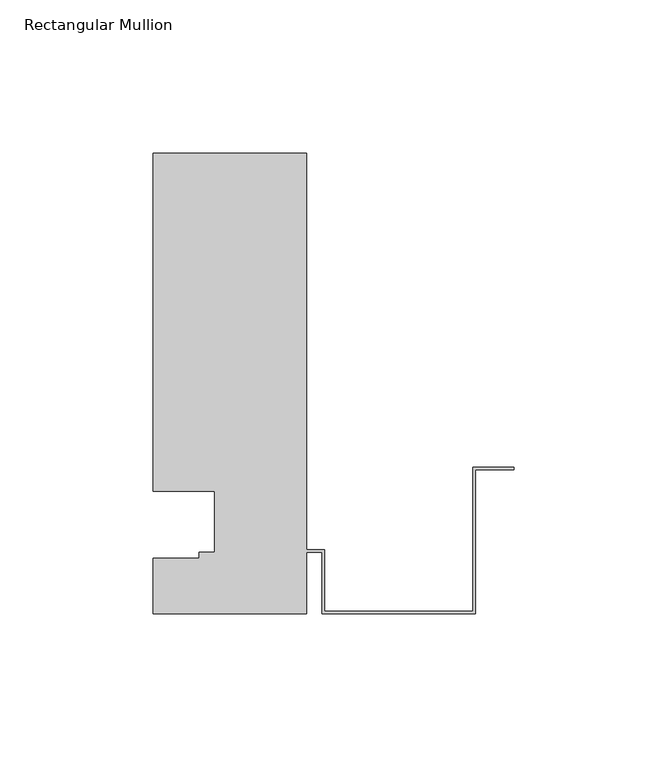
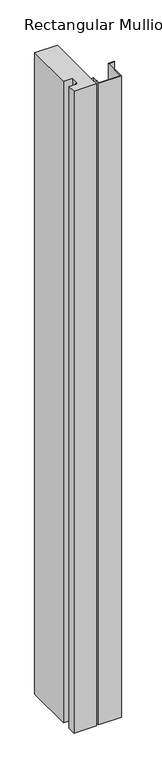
"""IFC4 building model written with IfcOpenShell, lengths in millimetres: member geometry, Rectangular Mullion : TR_CW_ALU_border_TR_m."""

import ifcopenshell
import ifcopenshell.guid

model = None  # the IFC model being written
_history = None  # IfcOwnerHistory: only IFC2X3 demands one
_inside = {}  # id of a spatial element -> (the spatial element, [elements in it])
_under = {}  # id of a project, library or spatial element -> (it, [spatial elements below it])
_declared = {}  # id of a project -> (the project, [libraries it declares])
_typed = {}  # id of a type object -> (the type object, [elements of that type])
_made_of = {}  # id of a material, layer set ... -> (it, [elements and type objects made of it])


def new_model(schema):
    """Start an empty IFC model of exactly this schema.

    Asked for "IFC4X3", IfcOpenShell would pick the latest addendum, in which some entities
    have other attributes; the version numbers below select the first issue.
    IFC2X3 requires an IfcOwnerHistory on every rooted entity: one is made here for all.
    """
    global model, _history
    if schema == "IFC4X3":
        model = ifcopenshell.file(schema_version=(4, 3, 0, 0))
    else:
        model = ifcopenshell.file(schema=schema)
    _inside.clear()
    _under.clear()
    _declared.clear()
    _typed.clear()
    _made_of.clear()
    _history = None
    if model.schema == "IFC2X3":
        org = make("IfcOrganization", Name="unknown")
        user = make(
            "IfcPersonAndOrganization",
            ThePerson=make("IfcPerson", FamilyName="unknown"),
            TheOrganization=org,
        )
        app = make(
            "IfcApplication",
            ApplicationDeveloper=org,
            Version="unknown",
            ApplicationFullName="unknown",
            ApplicationIdentifier="unknown",
        )
        _history = make(
            "IfcOwnerHistory",
            OwningUser=user,
            OwningApplication=app,
            ChangeAction="ADDED",
            CreationDate=0,
        )
    return model


def make(cls, **values):
    """One entity of the class cls with the attributes given. An attribute that is None is left unset."""
    return model.create_entity(
        cls, **{name: value for name, value in values.items() if value is not None}
    )


def rooted(cls, **values):
    """An entity with a GlobalId (a new one), such as an element, a storey or a relation."""
    return make(cls, GlobalId=ifcopenshell.guid.new(), OwnerHistory=_history, **values)


def si_unit(unit_type, name, prefix=None):
    """IfcSIUnit, for example si_unit("LENGTHUNIT", "METRE", prefix="MILLI")."""
    return make("IfcSIUnit", UnitType=unit_type, Prefix=prefix, Name=name)


def assignment(units):
    """IfcUnitAssignment: the units of a project."""
    return None if units is None else make("IfcUnitAssignment", Units=units)


def point(xyz):
    """IfcCartesianPoint."""
    return None if xyz is None else make("IfcCartesianPoint", Coordinates=xyz)


def direction(xyz):
    """IfcDirection."""
    return None if xyz is None else make("IfcDirection", DirectionRatios=xyz)


def frame(location, z_axis=None, x_axis=None):
    """IfcAxis2Placement3D, a coordinate frame: its origin and axes. An axis left out is left unset."""
    return make(
        "IfcAxis2Placement3D",
        Location=point(location),
        Axis=direction(z_axis),
        RefDirection=direction(x_axis),
    )


def origin():
    """The frame at (0, 0, 0) with its axes left unset."""
    return frame((0.0, 0.0, 0.0))


def place(relative_to, where):
    """IfcLocalPlacement: puts the frame where relative to a parent placement (None: the world)."""
    return make(
        "IfcLocalPlacement", PlacementRelTo=relative_to, RelativePlacement=where
    )


def context(
    kind, dimensions, precision=None, world=None, true_north=None, identifier=None
):
    """IfcGeometricRepresentationContext, for example the 3D "Model" context."""
    return make(
        "IfcGeometricRepresentationContext",
        ContextIdentifier=identifier,
        ContextType=kind,
        CoordinateSpaceDimension=dimensions,
        Precision=precision,
        WorldCoordinateSystem=world,
        TrueNorth=true_north,
    )


def project(units=None, contexts=None):
    """IfcProject with its units and contexts."""
    return rooted(
        "IfcProject",
        Name="project",
        RepresentationContexts=contexts,
        UnitsInContext=assignment(units),
    )


def spatial(cls, under=None, at=None, **own):
    """A site, building, storey or space (cls), placed at a placement, below another one or the project."""
    s = rooted(cls, ObjectPlacement=at, **own)
    if under is not None:
        _under.setdefault(under.id(), (under, []))[1].append(s)
    return s


def polyline(points):
    """IfcPolyline through the points."""
    return make("IfcPolyline", Points=[point(p) for p in points])


def outline(outer, holes=None, kind="AREA"):
    """IfcArbitraryClosedProfileDef: a profile drawn as a closed curve; with holes, ...WithVoids."""
    if holes is None:
        return make("IfcArbitraryClosedProfileDef", ProfileType=kind, OuterCurve=outer)
    return make(
        "IfcArbitraryProfileDefWithVoids",
        ProfileType=kind,
        OuterCurve=outer,
        InnerCurves=holes,
    )


def extrude(swept, where, along, depth):
    """IfcExtrudedAreaSolid: the profile swept, set in the frame where, extruded along a direction by depth."""
    return make(
        "IfcExtrudedAreaSolid",
        SweptArea=swept,
        Position=where,
        ExtrudedDirection=direction(along),
        Depth=depth,
    )


def shape(context_of_items, identifier, shape_type, items):
    """IfcShapeRepresentation: the items that make up one representation, for example the "Body"."""
    return make(
        "IfcShapeRepresentation",
        ContextOfItems=context_of_items,
        RepresentationIdentifier=identifier,
        RepresentationType=shape_type,
        Items=items,
    )


def source(mapping_origin, context_of_items, identifier, shape_type, items):
    """IfcRepresentationMap: a shape defined once, which mapped items show again and again."""
    return make(
        "IfcRepresentationMap",
        MappingOrigin=mapping_origin,
        MappedRepresentation=shape(context_of_items, identifier, shape_type, items),
    )


def transform(
    local_origin,
    x_axis=None,
    y_axis=None,
    z_axis=None,
    scale=None,
    scale2=None,
    scale3=None,
    uniform=True,
):
    """IfcCartesianTransformationOperator3D, or its non-uniform kind. x_axis, y_axis, z_axis: its Axis1, 2, 3."""
    if uniform:
        return make(
            "IfcCartesianTransformationOperator3D",
            Axis1=direction(x_axis),
            Axis2=direction(y_axis),
            LocalOrigin=point(local_origin),
            Scale=scale,
            Axis3=direction(z_axis),
        )
    return make(
        "IfcCartesianTransformationOperator3DnonUniform",
        Axis1=direction(x_axis),
        Axis2=direction(y_axis),
        LocalOrigin=point(local_origin),
        Scale=scale,
        Axis3=direction(z_axis),
        Scale2=scale2,
        Scale3=scale3,
    )


def mapped(mapping_source, mapping_target):
    """IfcMappedItem: shows the shape of a source again, moved by a transform."""
    return make(
        "IfcMappedItem", MappingSource=mapping_source, MappingTarget=mapping_target
    )


def made_of(thing, what):
    """Note that an element or type object is made of a material, layer set ...; save() writes the relation."""
    if what is not None:
        _made_of.setdefault(what.id(), (what, []))[1].append(thing)
    return thing


def element(
    cls,
    number,
    at=None,
    inside=None,
    cuts=None,
    type_object=None,
    material=None,
    context=None,
    identifier="Body",
    shape_type=None,
    held_by="IfcProductDefinitionShape",
    body=None,
    shapes=None,
    **own,
):
    """One element of the class cls, such as IfcWall. Its Tag is "e" and its number.

    at: its placement. inside: the storey or other place that contains it. cuts: it is an
    opening in that element (IfcRelVoidsElement). A single representation is given by context,
    identifier, shape_type and body (its items); several are given by shapes. held_by: the class
    of the entity that holds the representations. save() writes the other relations.
    """
    e = rooted(cls, Tag="e%d" % number, ObjectPlacement=at, **own)
    if body is not None:
        shapes = [shape(context, identifier, shape_type, body)]
    if shapes is not None:
        e.Representation = make(held_by, Representations=shapes)
    if inside is not None:
        _inside.setdefault(inside.id(), (inside, []))[1].append(e)
    if cuts is not None:
        rooted(
            "IfcRelVoidsElement", RelatingBuildingElement=cuts, RelatedOpeningElement=e
        )
    if type_object is not None:
        _typed.setdefault(type_object.id(), (type_object, []))[1].append(e)
    return made_of(e, material)


def aggregate(whole, parts):
    """IfcRelAggregates: a whole, such as a stair, and the parts it consists of."""
    return rooted("IfcRelAggregates", RelatingObject=whole, RelatedObjects=parts)


def save(model, path):
    """Write the relations noted so far, then the file.

    IfcRelAggregates (storeys below a building ...), IfcRelContainedInSpatialStructure (elements
    in a storey), IfcRelDefinesByType, IfcRelAssociatesMaterial and IfcRelDeclares: one each for
    every whole, place, type object, material and project.
    """
    for whole, parts in _under.values():
        aggregate(whole, parts)
    for where, things in _inside.values():
        rooted(
            "IfcRelContainedInSpatialStructure",
            RelatedElements=things,
            RelatingStructure=where,
        )
    for kind, things in _typed.values():
        rooted("IfcRelDefinesByType", RelatedObjects=things, RelatingType=kind)
    for what, things in _made_of.values():
        rooted("IfcRelAssociatesMaterial", RelatedObjects=things, RelatingMaterial=what)
    for by, libraries in _declared.values():
        rooted("IfcRelDeclares", RelatingContext=by, RelatedDefinitions=libraries)
    model.write(path)


def rectangular_mullion_1b65c828(model_context):
    return source(origin(), model_context, "Body", "SweptSolid", [
        extrude(outline(polyline([(-117.5, 0.0), (-117.5, 18.0204111), (-102.5, 18.0204111), (-102.5, 20.0), (-97.5, 20.0), (-97.5, 40.0), (-117.5, 40.0), (-117.5, 150.0), (-67.5, 150.0), (-67.5, 20.8), (-61.7, 20.8), (-61.7, 0.8), (-13.3, 0.8), (-13.3, 47.8), (0.0, 47.8), (0.0, 47.0), (-12.5, 47.0), (-12.5, 0.0), (-62.5, 0.0), (-62.5, 20.0), (-67.5, 20.0), (-67.5, 0.0), (-117.5, 0.0)])), frame((0.0, 0.0, -1500.0), z_axis=(0.0, 0.0, 1.0), x_axis=(1.0, 0.0, 0.0)), (0.0, 0.0, 1.0), 1500.0),
    ])


if __name__ == "__main__":
    model = new_model("IFC4")
    model_context = context("Model", 3, world=origin())
    ifc_project = project(units=[si_unit("LENGTHUNIT", "METRE", prefix="MILLI")], contexts=[model_context])
    site = spatial("IfcSite", under=ifc_project)
    building = spatial("IfcBuilding", under=site)
    placement = place(None, origin())
    rectangular_mullion_shape = rectangular_mullion_1b65c828(model_context)
    element("IfcMember", 1, ObjectType="Rectangular Mullion : TR_CW_ALU_border_TR_m", at=placement, inside=building, context=model_context, shape_type="MappedRepresentation", body=[
        mapped(rectangular_mullion_shape, transform((0.0, 0.0, 0.0), x_axis=(1.0, 0.0, 0.0), y_axis=(0.0, 1.0, 0.0), z_axis=(0.0, 0.0, 1.0))),
    ])
    save(model, "model.ifc")
